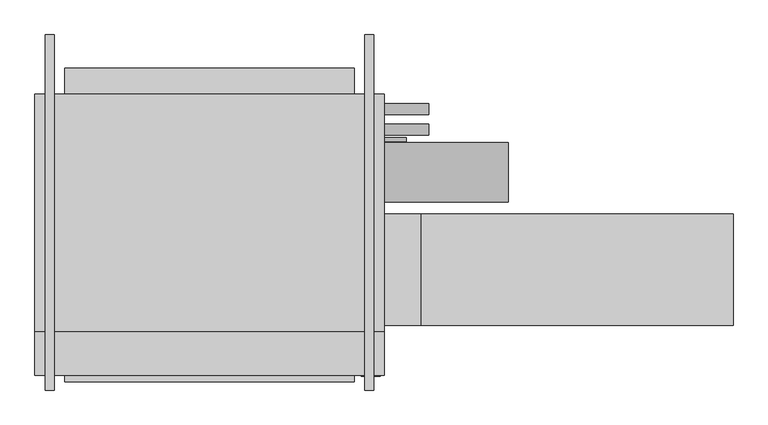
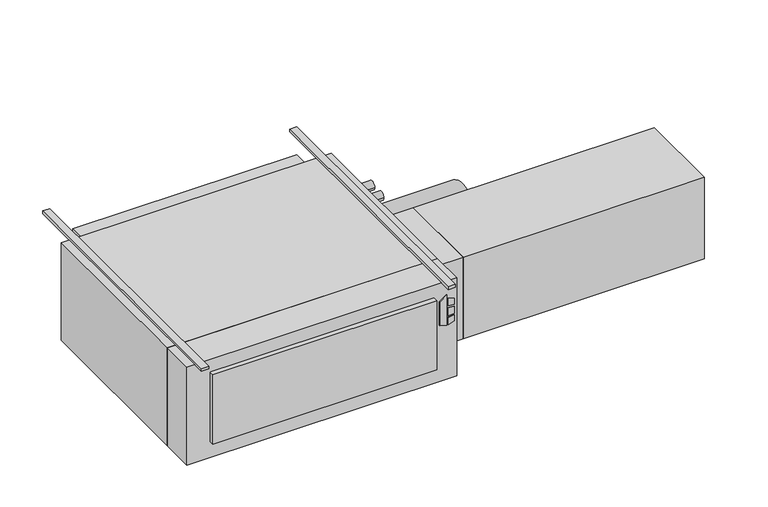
"""IFC4 building model written with IfcOpenShell, lengths in millimetres: proxy geometry."""

from ifc_helpers import new_model, si_unit, point, frame, frame_2d, origin, origin_with_axes, place, context, project, spatial, polyline, circle_curve, trimmed, segment, composite_curve, outline, extrude, source, transform, mapped, element, save


def mechanical_equipment_6c4fba5a(model_context):
    return source(origin(), model_context, "Body", "SweptSolid", [
        extrude(outline(polyline([(-193.2519297, 671.5868862), (-203.2, 703.7602728), (-61.0290756, 703.7602728), (-84.0510817, 671.5868862), (-193.2519297, 671.5868862)])), frame((0.0, -797.052, 0.0), z_axis=(0.0, 1.0, 0.0), x_axis=(0.0, 0.0, 1.0)), (0.0, 0.0, 1.0), 3.175),
        extrude(outline(polyline([(-114.2526443, 710.5186058), (-117.4550368, 736.6), (-88.2261958, 736.6), (-80.1617807, 710.5186058), (-114.2526443, 710.5186058)])), frame((0.0, -797.052, 0.0), z_axis=(0.0, 1.0, 0.0), x_axis=(0.0, 0.0, 1.0)), (0.0, 0.0, 1.0), 3.175),
        extrude(outline(polyline([(-166.1161712, 736.6), (-169.7816721, 710.5186058), (-203.2, 710.5186058), (-194.5657628, 736.6), (-166.1161712, 736.6)])), frame((0.0, -797.052, 0.0), z_axis=(0.0, 1.0, 0.0), x_axis=(0.0, 0.0, 1.0)), (0.0, 0.0, 1.0), 3.175),
        extrude(outline(polyline([(-126.8010097, 736.6), (-124.5191834, 710.5186058), (-160.4567319, 710.5186058), (-157.7154669, 736.6), (-126.8010097, 736.6)])), frame((0.0, -797.052, 0.0), z_axis=(0.0, 1.0, 0.0), x_axis=(0.0, 0.0, 1.0)), (0.0, 0.0, 1.0), 3.175),
        extrude(outline(polyline([(749.3, -793.877), (-444.5, -793.877), (-444.5, -644.525), (749.3, -644.525), (749.3, -793.877)])), frame((0.0, 0.0, -457.2), z_axis=(0.0, 0.0, 1.0), x_axis=(1.0, 0.0, 0.0)), (0.0, 0.0, 1.0), 457.2),
        extrude(outline(polyline([(647.7, -816.229), (-342.9, -816.229), (-342.9, -793.877), (647.7, -793.877), (647.7, -816.229)])), frame((0.0, 0.0, -381.0), z_axis=(0.0, 0.0, 1.0), x_axis=(1.0, 0.0, 0.0)), (0.0, 0.0, 1.0), 323.85),
        extrude(outline(polyline([(1943.1, -241.3), (1943.1, -622.3), (876.3, -622.3), (876.3, -241.3), (1943.1, -241.3)])), frame((0.0, 0.0, -431.8), z_axis=(0.0, 0.0, 1.0), x_axis=(1.0, 0.0, 0.0)), (0.0, 0.0, 1.0), 381.0),
        extrude(outline(polyline([(876.3, -241.3), (876.3, -622.3), (749.3, -622.3), (749.3, -241.3), (876.3, -241.3)])), frame((0.0, 0.0, -431.8), z_axis=(0.0, 0.0, 1.0), x_axis=(1.0, 0.0, 0.0)), (0.0, 0.0, 1.0), 381.0),
        extrude(outline(composite_curve([segment(trimmed(circle_curve(frame_2d((117.475, -171.45)), 19.05), [point((136.525, -171.45))], [point((98.425, -171.45))], False, "CARTESIAN"), True, "CONTINUOUS"), segment(trimmed(circle_curve(frame_2d((117.475, -171.45)), 19.05), [point((98.425, -171.45))], [point((136.525, -171.45))], False, "CARTESIAN"), True, "CONTINUOUS")], self_intersect=False)), frame((749.3, 0.0, 0.0), z_axis=(1.0, 0.0, 0.0), x_axis=(0.0, 1.0, 0.0)), (0.0, 0.0, 1.0), 152.4),
        extrude(outline(composite_curve([segment(trimmed(circle_curve(frame_2d((47.625, -177.8)), 19.05), [point((66.675, -177.8))], [point((28.575, -177.8))], False, "CARTESIAN"), True, "CONTINUOUS"), segment(trimmed(circle_curve(frame_2d((47.625, -177.8)), 19.05), [point((28.575, -177.8))], [point((66.675, -177.8))], False, "CARTESIAN"), True, "CONTINUOUS")], self_intersect=False)), frame((749.3, 0.0, 0.0), z_axis=(1.0, 0.0, 0.0), x_axis=(0.0, 1.0, 0.0)), (0.0, 0.0, 1.0), 152.4),
        extrude(outline(composite_curve([segment(trimmed(circle_curve(frame_2d((-98.4896516, -228.6360165)), 101.6), [point((3.1103484, -228.6360165))], [point((-200.0896516, -228.6360165))], False, "CARTESIAN"), True, "CONTINUOUS"), segment(trimmed(circle_curve(frame_2d((-98.4896516, -228.6360165)), 101.6), [point((-200.0896516, -228.6360165))], [point((3.1103484, -228.6360165))], False, "CARTESIAN"), True, "CONTINUOUS")], self_intersect=False)), frame((749.3, 0.0, 0.0), z_axis=(1.0, 0.0, 0.0), x_axis=(0.0, 1.0, 0.0)), (0.0, 0.0, 1.0), 425.45),
        extrude(outline(composite_curve([segment(trimmed(circle_curve(frame_2d((12.7, -409.575)), 6.35), [point((19.05, -409.575))], [point((6.35, -409.575))], False, "CARTESIAN"), True, "CONTINUOUS"), segment(trimmed(circle_curve(frame_2d((12.7, -409.575)), 6.35), [point((6.35, -409.575))], [point((19.05, -409.575))], False, "CARTESIAN"), True, "CONTINUOUS")], self_intersect=False)), frame((749.3, 0.0, 0.0), z_axis=(1.0, 0.0, 0.0), x_axis=(0.0, 1.0, 0.0)), (0.0, 0.0, 1.0), 76.2),
        extrude(outline(polyline([(749.3, 168.275), (749.3, -644.525), (-444.5, -644.525), (-444.5, 168.275), (749.3, 168.275)])), frame((0.0, 0.0, -457.2), z_axis=(0.0, 0.0, 1.0), x_axis=(1.0, 0.0, 0.0)), (0.0, 0.0, 1.0), 457.2),
        extrude(outline(polyline([(-342.9, 257.175), (647.7, 257.175), (647.7, 168.275), (-342.9, 168.275), (-342.9, 257.175)])), frame((0.0, 0.0, -381.0), z_axis=(0.0, 0.0, 1.0), x_axis=(1.0, 0.0, 0.0)), (0.0, 0.0, 1.0), 355.6),
        extrude(outline(polyline([(-377.825, 371.475), (-377.825, -844.677), (-409.575, -844.677), (-409.575, 371.475), (-377.825, 371.475)])), origin_with_axes(), (0.0, 0.0, 1.0), 12.7),
        extrude(outline(polyline([(714.375, 371.475), (714.375, -844.677), (682.625, -844.677), (682.625, 371.475), (714.375, 371.475)])), origin_with_axes(), (0.0, 0.0, 1.0), 12.7),
    ])


if __name__ == "__main__":
    model = new_model("IFC4")
    model_context = context("Model", 3, world=origin())
    ifc_project = project(units=[si_unit("LENGTHUNIT", "METRE", prefix="MILLI")], contexts=[model_context])
    site = spatial("IfcSite", under=ifc_project)
    building = spatial("IfcBuilding", under=site)
    placement = place(None, origin())
    mechanical_equipment_shape = mechanical_equipment_6c4fba5a(model_context)
    element("IfcBuildingElementProxy", 1, Name="High_Capacity_Horizontal_Cabinet_Fan_Coil_Unit_-_HTY_-_IEC_-_2 Pipe, Elec Heat_WO-Attenuator_RH Side_2022 : Size 16 - 277v/60Hz/1Ph - 8/0 Coil 10.0kW - 8\" AirIn", ObjectType="High_Capacity_Horizontal_Cabinet_Fan_Coil_Unit_-_HTY_-_IEC_-_2 Pipe, Elec Heat_WO-Attenuator_RH Side_2022 : Size 16 - 277v/60Hz/1Ph - 8/0 Coil 10.0kW - 8\" AirIn", at=placement, inside=building, context=model_context, shape_type="MappedRepresentation", body=[
        mapped(mechanical_equipment_shape, transform((0.0, 0.0, 0.0), x_axis=(1.0, 0.0, 0.0), y_axis=(0.0, 1.0, 0.0), z_axis=(0.0, 0.0, 1.0))),
    ])
    save(model, "model.ifc")
